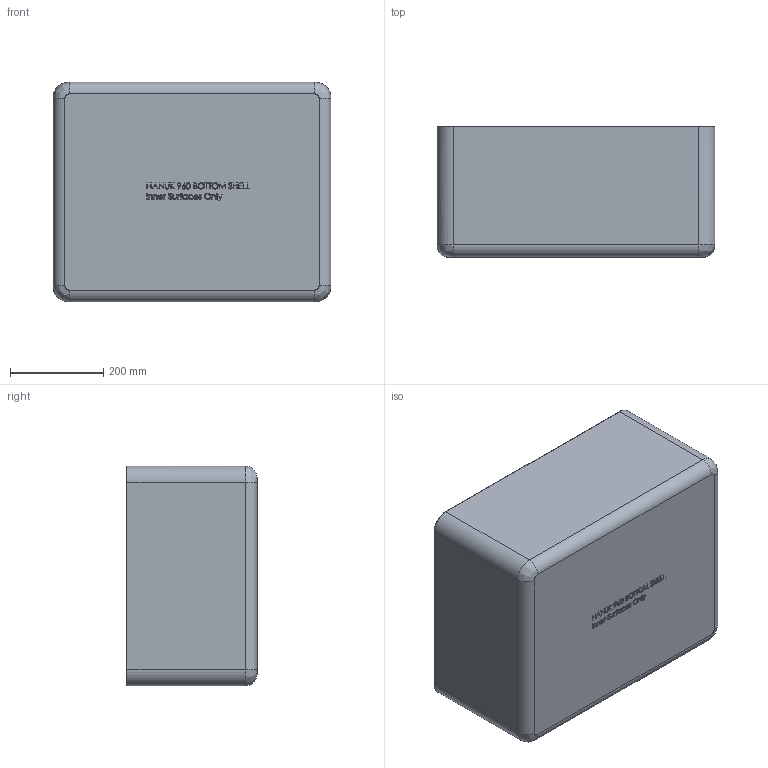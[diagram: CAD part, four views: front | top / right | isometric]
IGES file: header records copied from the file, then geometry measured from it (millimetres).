
Start section: SolidWorks IGES file using analytic representation for surfaces
Global section: file name: X:\Share\NANUK\Solidworks\3D\Cases\960\4 - 3D FILES\4 - Inner Surfaces\960_Bottom_INNER SURFACES.IGS; native system: SolidWorks 2019; preprocessor: SolidWorks 2019; author: bcoley; date: 200703.091640; units: inch
Bounding box: 594.98 x 278.32 x 470.49 mm (x, y, z)
Surface area: 1883002.7 mm2 (no closed solid volume)
Topology: 0 solids, 0 shells, 1100 faces, 14252 edges, 14238 vertices
Faces by surface type: bspline 815, revolution 285
